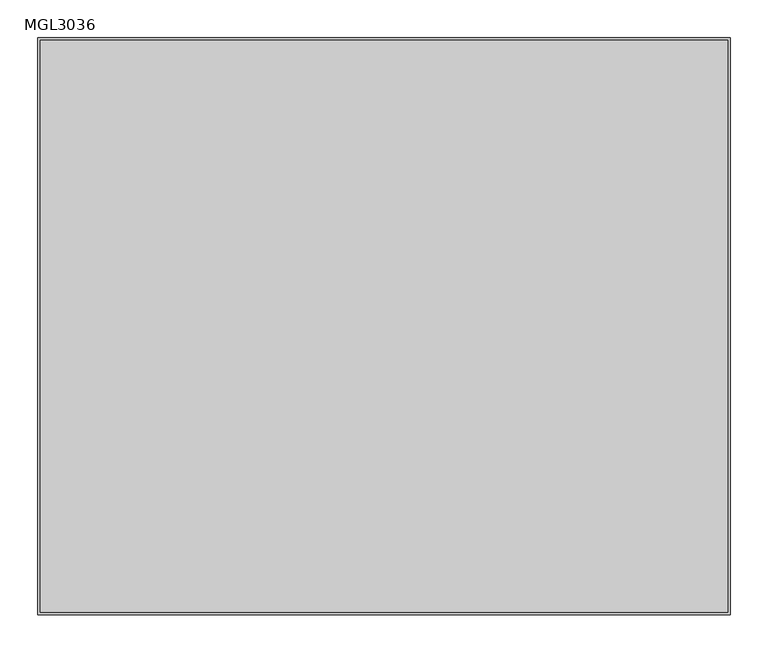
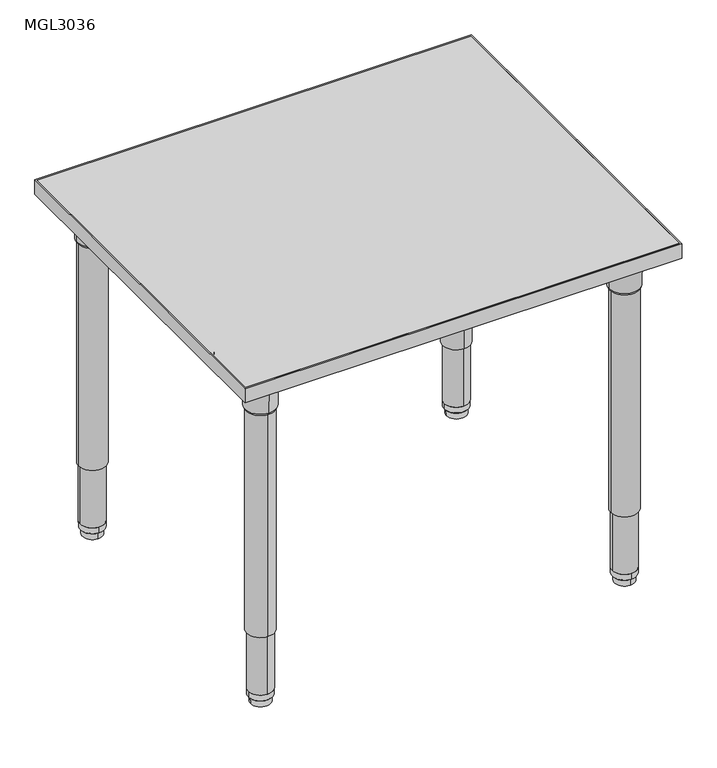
"""IFC4 building model written with IfcOpenShell, lengths in millimetres: furniture geometry, ERG-Mingle-Table-Rectangle : MGL3036."""

import ifcopenshell
import ifcopenshell.guid

model = None  # the IFC model being written
_history = None  # IfcOwnerHistory: only IFC2X3 demands one
_inside = {}  # id of a spatial element -> (the spatial element, [elements in it])
_under = {}  # id of a project, library or spatial element -> (it, [spatial elements below it])
_declared = {}  # id of a project -> (the project, [libraries it declares])
_typed = {}  # id of a type object -> (the type object, [elements of that type])
_made_of = {}  # id of a material, layer set ... -> (it, [elements and type objects made of it])


def new_model(schema):
    """Start an empty IFC model of exactly this schema.

    Asked for "IFC4X3", IfcOpenShell would pick the latest addendum, in which some entities
    have other attributes; the version numbers below select the first issue.
    IFC2X3 requires an IfcOwnerHistory on every rooted entity: one is made here for all.
    """
    global model, _history
    if schema == "IFC4X3":
        model = ifcopenshell.file(schema_version=(4, 3, 0, 0))
    else:
        model = ifcopenshell.file(schema=schema)
    _inside.clear()
    _under.clear()
    _declared.clear()
    _typed.clear()
    _made_of.clear()
    _history = None
    if model.schema == "IFC2X3":
        org = make("IfcOrganization", Name="unknown")
        user = make(
            "IfcPersonAndOrganization",
            ThePerson=make("IfcPerson", FamilyName="unknown"),
            TheOrganization=org,
        )
        app = make(
            "IfcApplication",
            ApplicationDeveloper=org,
            Version="unknown",
            ApplicationFullName="unknown",
            ApplicationIdentifier="unknown",
        )
        _history = make(
            "IfcOwnerHistory",
            OwningUser=user,
            OwningApplication=app,
            ChangeAction="ADDED",
            CreationDate=0,
        )
    return model


def make(cls, **values):
    """One entity of the class cls with the attributes given. An attribute that is None is left unset."""
    return model.create_entity(
        cls, **{name: value for name, value in values.items() if value is not None}
    )


def rooted(cls, **values):
    """An entity with a GlobalId (a new one), such as an element, a storey or a relation."""
    return make(cls, GlobalId=ifcopenshell.guid.new(), OwnerHistory=_history, **values)


def si_unit(unit_type, name, prefix=None):
    """IfcSIUnit, for example si_unit("LENGTHUNIT", "METRE", prefix="MILLI")."""
    return make("IfcSIUnit", UnitType=unit_type, Prefix=prefix, Name=name)


def assignment(units):
    """IfcUnitAssignment: the units of a project."""
    return None if units is None else make("IfcUnitAssignment", Units=units)


def point(xyz):
    """IfcCartesianPoint."""
    return None if xyz is None else make("IfcCartesianPoint", Coordinates=xyz)


def direction(xyz):
    """IfcDirection."""
    return None if xyz is None else make("IfcDirection", DirectionRatios=xyz)


def frame(location, z_axis=None, x_axis=None):
    """IfcAxis2Placement3D, a coordinate frame: its origin and axes. An axis left out is left unset."""
    return make(
        "IfcAxis2Placement3D",
        Location=point(location),
        Axis=direction(z_axis),
        RefDirection=direction(x_axis),
    )


def frame_2d(location, x_axis=None):
    """IfcAxis2Placement2D, a coordinate frame in the plane: its origin and x axis."""
    return make(
        "IfcAxis2Placement2D", Location=point(location), RefDirection=direction(x_axis)
    )


def origin():
    """The frame at (0, 0, 0) with its axes left unset."""
    return frame((0.0, 0.0, 0.0))


def place(relative_to, where):
    """IfcLocalPlacement: puts the frame where relative to a parent placement (None: the world)."""
    return make(
        "IfcLocalPlacement", PlacementRelTo=relative_to, RelativePlacement=where
    )


def context(
    kind, dimensions, precision=None, world=None, true_north=None, identifier=None
):
    """IfcGeometricRepresentationContext, for example the 3D "Model" context."""
    return make(
        "IfcGeometricRepresentationContext",
        ContextIdentifier=identifier,
        ContextType=kind,
        CoordinateSpaceDimension=dimensions,
        Precision=precision,
        WorldCoordinateSystem=world,
        TrueNorth=true_north,
    )


def project(units=None, contexts=None):
    """IfcProject with its units and contexts."""
    return rooted(
        "IfcProject",
        Name="project",
        RepresentationContexts=contexts,
        UnitsInContext=assignment(units),
    )


def spatial(cls, under=None, at=None, **own):
    """A site, building, storey or space (cls), placed at a placement, below another one or the project."""
    s = rooted(cls, ObjectPlacement=at, **own)
    if under is not None:
        _under.setdefault(under.id(), (under, []))[1].append(s)
    return s


def polyline(points):
    """IfcPolyline through the points."""
    return make("IfcPolyline", Points=[point(p) for p in points])


def circle_curve(where, radius):
    """IfcCircle in the frame where."""
    return make("IfcCircle", Position=where, Radius=radius)


def trimmed(basis, trim1, trim2, sense, master):
    """IfcTrimmedCurve: the piece of a basis curve between two trims."""
    return make(
        "IfcTrimmedCurve",
        BasisCurve=basis,
        Trim1=trim1,
        Trim2=trim2,
        SenseAgreement=sense,
        MasterRepresentation=master,
    )


def segment(curve, same_sense, transition):
    """IfcCompositeCurveSegment."""
    return make(
        "IfcCompositeCurveSegment",
        Transition=transition,
        SameSense=same_sense,
        ParentCurve=curve,
    )


def composite_curve(segments, self_intersect=None):
    """IfcCompositeCurve: segments joined end to end."""
    return make("IfcCompositeCurve", Segments=segments, SelfIntersect=self_intersect)


def outline(outer, holes=None, kind="AREA"):
    """IfcArbitraryClosedProfileDef: a profile drawn as a closed curve; with holes, ...WithVoids."""
    if holes is None:
        return make("IfcArbitraryClosedProfileDef", ProfileType=kind, OuterCurve=outer)
    return make(
        "IfcArbitraryProfileDefWithVoids",
        ProfileType=kind,
        OuterCurve=outer,
        InnerCurves=holes,
    )


def extrude(swept, where, along, depth):
    """IfcExtrudedAreaSolid: the profile swept, set in the frame where, extruded along a direction by depth."""
    return make(
        "IfcExtrudedAreaSolid",
        SweptArea=swept,
        Position=where,
        ExtrudedDirection=direction(along),
        Depth=depth,
    )


def shape(context_of_items, identifier, shape_type, items):
    """IfcShapeRepresentation: the items that make up one representation, for example the "Body"."""
    return make(
        "IfcShapeRepresentation",
        ContextOfItems=context_of_items,
        RepresentationIdentifier=identifier,
        RepresentationType=shape_type,
        Items=items,
    )


def source(mapping_origin, context_of_items, identifier, shape_type, items):
    """IfcRepresentationMap: a shape defined once, which mapped items show again and again."""
    return make(
        "IfcRepresentationMap",
        MappingOrigin=mapping_origin,
        MappedRepresentation=shape(context_of_items, identifier, shape_type, items),
    )


def transform(
    local_origin,
    x_axis=None,
    y_axis=None,
    z_axis=None,
    scale=None,
    scale2=None,
    scale3=None,
    uniform=True,
):
    """IfcCartesianTransformationOperator3D, or its non-uniform kind. x_axis, y_axis, z_axis: its Axis1, 2, 3."""
    if uniform:
        return make(
            "IfcCartesianTransformationOperator3D",
            Axis1=direction(x_axis),
            Axis2=direction(y_axis),
            LocalOrigin=point(local_origin),
            Scale=scale,
            Axis3=direction(z_axis),
        )
    return make(
        "IfcCartesianTransformationOperator3DnonUniform",
        Axis1=direction(x_axis),
        Axis2=direction(y_axis),
        LocalOrigin=point(local_origin),
        Scale=scale,
        Axis3=direction(z_axis),
        Scale2=scale2,
        Scale3=scale3,
    )


def mapped(mapping_source, mapping_target):
    """IfcMappedItem: shows the shape of a source again, moved by a transform."""
    return make(
        "IfcMappedItem", MappingSource=mapping_source, MappingTarget=mapping_target
    )


def made_of(thing, what):
    """Note that an element or type object is made of a material, layer set ...; save() writes the relation."""
    if what is not None:
        _made_of.setdefault(what.id(), (what, []))[1].append(thing)
    return thing


def element(
    cls,
    number,
    at=None,
    inside=None,
    cuts=None,
    type_object=None,
    material=None,
    context=None,
    identifier="Body",
    shape_type=None,
    held_by="IfcProductDefinitionShape",
    body=None,
    shapes=None,
    **own,
):
    """One element of the class cls, such as IfcWall. Its Tag is "e" and its number.

    at: its placement. inside: the storey or other place that contains it. cuts: it is an
    opening in that element (IfcRelVoidsElement). A single representation is given by context,
    identifier, shape_type and body (its items); several are given by shapes. held_by: the class
    of the entity that holds the representations. save() writes the other relations.
    """
    e = rooted(cls, Tag="e%d" % number, ObjectPlacement=at, **own)
    if body is not None:
        shapes = [shape(context, identifier, shape_type, body)]
    if shapes is not None:
        e.Representation = make(held_by, Representations=shapes)
    if inside is not None:
        _inside.setdefault(inside.id(), (inside, []))[1].append(e)
    if cuts is not None:
        rooted(
            "IfcRelVoidsElement", RelatingBuildingElement=cuts, RelatedOpeningElement=e
        )
    if type_object is not None:
        _typed.setdefault(type_object.id(), (type_object, []))[1].append(e)
    return made_of(e, material)


def aggregate(whole, parts):
    """IfcRelAggregates: a whole, such as a stair, and the parts it consists of."""
    return rooted("IfcRelAggregates", RelatingObject=whole, RelatedObjects=parts)


def save(model, path):
    """Write the relations noted so far, then the file.

    IfcRelAggregates (storeys below a building ...), IfcRelContainedInSpatialStructure (elements
    in a storey), IfcRelDefinesByType, IfcRelAssociatesMaterial and IfcRelDeclares: one each for
    every whole, place, type object, material and project.
    """
    for whole, parts in _under.values():
        aggregate(whole, parts)
    for where, things in _inside.values():
        rooted(
            "IfcRelContainedInSpatialStructure",
            RelatedElements=things,
            RelatingStructure=where,
        )
    for kind, things in _typed.values():
        rooted("IfcRelDefinesByType", RelatedObjects=things, RelatingType=kind)
    for what, things in _made_of.values():
        rooted("IfcRelAssociatesMaterial", RelatedObjects=things, RelatingMaterial=what)
    for by, libraries in _declared.values():
        rooted("IfcRelDeclares", RelatingContext=by, RelatedDefinitions=libraries)
    model.write(path)


def plane_surface(at):
    """IfcPlane: the flat surface through the origin of the frame at, square to its z axis."""
    return make("IfcPlane", Position=at)


def cylinder_surface(at, radius):
    """IfcCylindricalSurface: all points at the distance radius from the z axis of the frame at."""
    return make("IfcCylindricalSurface", Position=at, Radius=radius)


def revolved_surface(curve, axis_point, axis_direction):
    """IfcSurfaceOfRevolution: the curve turned about the line through axis_point along axis_direction."""
    return make(
        "IfcSurfaceOfRevolution",
        SweptCurve=make("IfcArbitraryOpenProfileDef", ProfileType="CURVE", Curve=curve),
        AxisPosition=make("IfcAxis1Placement", Location=point(axis_point), Axis=direction(axis_direction)),
    )


def advanced_brep(points, edges, surfaces, faces):
    """IfcAdvancedBrep: a solid bounded by faces that lie on surfaces and meet in shared edges.

    An edge is (start, end): straight between two places in points (the first is 0);
    or (start, end, curve); or (start, end, curve, False) where it runs against its curve.
    A face is (place in surfaces, loops), or (place, loops, False) where it looks against
    its surface's normal. A loop lists edges by number (the first is 1), with a minus sign
    where the edge is run from its end to its start. The first loop is the outer one.
    """
    corners = [point(p) for p in points]
    vertices = [make("IfcVertexPoint", VertexGeometry=c) for c in corners]
    made = []
    for start, end, *more in edges:
        made.append(
            make(
                "IfcEdgeCurve",
                EdgeStart=vertices[start],
                EdgeEnd=vertices[end],
                EdgeGeometry=more[0] if more else make("IfcPolyline", Points=[corners[start], corners[end]]),
                SameSense=more[1] if len(more) > 1 else True,
            )
        )
    hull = []
    for where, loops, *sense in faces:
        bounds = []
        for j, loop in enumerate(loops):
            ring = [make("IfcOrientedEdge", EdgeElement=made[abs(k) - 1], Orientation=k > 0) for k in loop]
            bounds.append(
                make(
                    "IfcFaceOuterBound" if j == 0 else "IfcFaceBound",
                    Bound=make("IfcEdgeLoop", EdgeList=ring),
                    Orientation=True,
                )
            )
        hull.append(make("IfcAdvancedFace", Bounds=bounds, FaceSurface=surfaces[where], SameSense=sense[0] if sense else True))
    return make("IfcAdvancedBrep", Outer=make("IfcClosedShell", CfsFaces=hull))


def mgl3036_8a9be515(model_context):
    return source(origin(), model_context, "Body", "SolidModel", [
        advanced_brep(
        [(350.9646842, -304.8, 650.5933069), (411.0353158, -304.8, 650.5933069), (381.0, -304.8, 650.5933069), (348.856117, -304.8, 654.3580481), (413.143883, -304.8, 654.3580481), (347.9206351, -304.8, 707.7631458), (414.0793649, -304.8, 707.7631458), (344.471083, -304.8, 714.1198315), (417.528917, -304.8, 714.1198315), (344.471083, -304.8, 726.8198315), (417.528917, -304.8, 726.8198315), (381.0, -304.8, 726.8198315)],
        [
            (0, 1, circle_curve(frame((381.0, -304.8, 650.5933069), z_axis=(0.0, 0.0, -1.0), x_axis=(1.0, 0.0, 0.0)), 30.0353158)),
            (1, 2),
            (2, 0),
            (1, 0, circle_curve(frame((381.0, -304.8, 650.5933069), z_axis=(0.0, 0.0, -1.0), x_axis=(1.0, 0.0, 0.0)), 30.0353158)),
            (3, 4, circle_curve(frame((381.0, -304.8, 654.3580481), z_axis=(0.0, 0.0, -1.0), x_axis=(1.0, 0.0, 0.0)), 32.143883)),
            (4, 1),
            (0, 3),
            (4, 3, circle_curve(frame((381.0, -304.8, 654.3580481), z_axis=(0.0, 0.0, -1.0), x_axis=(1.0, 0.0, 0.0)), 32.143883)),
            (5, 6, circle_curve(frame((381.0, -304.8, 707.7631458), z_axis=(0.0, 0.0, -1.0), x_axis=(1.0, 0.0, 0.0)), 33.0793649)),
            (6, 4),
            (3, 5),
            (6, 5, circle_curve(frame((381.0, -304.8, 707.7631458), z_axis=(0.0, 0.0, -1.0), x_axis=(1.0, 0.0, 0.0)), 33.0793649)),
            (7, 8, circle_curve(frame((381.0, -304.8, 714.1198315), z_axis=(0.0, 0.0, -1.0), x_axis=(1.0, 0.0, 0.0)), 36.528917)),
            (8, 6),
            (5, 7),
            (8, 7, circle_curve(frame((381.0, -304.8, 714.1198315), z_axis=(0.0, 0.0, -1.0), x_axis=(1.0, 0.0, 0.0)), 36.528917)),
            (9, 10, circle_curve(frame((381.0, -304.8, 726.8198315), z_axis=(0.0, 0.0, -1.0), x_axis=(1.0, 0.0, 0.0)), 36.528917)),
            (10, 8),
            (7, 9),
            (10, 9, circle_curve(frame((381.0, -304.8, 726.8198315), z_axis=(0.0, 0.0, -1.0), x_axis=(1.0, 0.0, 0.0)), 36.528917)),
            (11, 10),
            (9, 11),
        ],
        [
            plane_surface(frame((381.0, -304.8, 650.5933069), z_axis=(0.0, 0.0, -1.0), x_axis=(1.0, 0.0, 0.0))),
            revolved_surface(polyline([(411.0353158, -304.8, 650.5933069), (413.143883, -304.8, 654.3580481)]), (381.0, -304.8, 726.8198315), (0.0, 0.0, 1.0)),
            revolved_surface(polyline([(413.143883, -304.8, 654.3580481), (414.0793649, -304.8, 707.7631458)]), (381.0, -304.8, 726.8198315), (0.0, 0.0, 1.0)),
            revolved_surface(polyline([(414.0793649, -304.8, 707.7631458), (417.528917, -304.8, 714.1198315)]), (381.0, -304.8, 726.8198315), (0.0, 0.0, 1.0)),
            cylinder_surface(frame((381.0, -304.8, 726.8198315), z_axis=(0.0, 0.0, 1.0), x_axis=(1.0, 0.0, 0.0)), 36.528917),
            plane_surface(frame((381.0, -304.8, 726.8198315), z_axis=(0.0, 0.0, 1.0), x_axis=(1.0, 0.0, 0.0))),
        ],
        [
            (0, [[1, 2, 3]]),
            (0, [[4, -3, -2]]),
            (1, [[5, 6, -1, 7]]),
            (1, [[8, -7, -4, -6]]),
            (2, [[9, 10, -5, 11]]),
            (2, [[12, -11, -8, -10]]),
            (3, [[13, 14, -9, 15]]),
            (3, [[16, -15, -12, -14]]),
            (4, [[17, 18, -13, 19]]),
            (4, [[20, -19, -16, -18]]),
            (5, [[21, -17, 22]]),
            (5, [[-22, -20, -21]]),
        ],
    ),
        extrude(outline(composite_curve([segment(polyline([(426.873768, -222.2223426), (426.873768, -335.9483754)]), True, "CONTINUOUS"), segment(trimmed(circle_curve(frame_2d((410.998768, -335.9483754)), 15.875), [point((426.873768, -335.9483754))], [point((410.998768, -351.8233754))], False, "CARTESIAN"), True, "CONTINUOUS"), segment(polyline([(410.998768, -351.8233754), (297.2864205, -351.8233754)]), True, "CONTINUOUS"), segment(trimmed(circle_curve(frame_2d((297.2864205, -339.1233754)), 12.7), [point((297.2864205, -351.8233754))], [point((284.6491923, -337.8622394))], False, "CARTESIAN"), True, "CONTINUOUS"), segment(trimmed(circle_curve(frame_2d((427.1486077, -352.0830117)), 143.2072406), [point((284.6491923, -337.8622394))], [point((412.9111525, -209.5852622))], False, "CARTESIAN"), True, "CONTINUOUS"), segment(trimmed(circle_curve(frame_2d((414.173768, -222.2223426)), 12.7), [point((412.9111525, -209.5852622))], [point((426.873768, -222.2223426))], False, "CARTESIAN"), True, "CONTINUOUS")], self_intersect=False)), frame((0.0, 0.0, 726.8198315), z_axis=(0.0, 0.0, 1.0), x_axis=(1.0, 0.0, 0.0)), (0.0, 0.0, 1.0), 3.4301685),
        extrude(outline(composite_curve([segment(trimmed(circle_curve(frame_2d((381.0, -304.8)), 28.575), [point((409.575, -304.8))], [point((352.425, -304.8))], False, "CARTESIAN"), True, "CONTINUOUS"), segment(trimmed(circle_curve(frame_2d((381.0, -304.8)), 28.575), [point((352.425, -304.8))], [point((409.575, -304.8))], False, "CARTESIAN"), True, "CONTINUOUS")], self_intersect=False)), frame((0.0, 0.0, 158.3876979), z_axis=(0.0, 0.0, 1.0), x_axis=(1.0, 0.0, 0.0)), (0.0, 0.0, 1.0), 495.4089866),
        extrude(outline(composite_curve([segment(trimmed(circle_curve(frame_2d((381.0, -304.8)), 25.4), [point((406.4, -304.8))], [point((355.6, -304.8))], False, "CARTESIAN"), True, "CONTINUOUS"), segment(trimmed(circle_curve(frame_2d((381.0, -304.8)), 25.4), [point((355.6, -304.8))], [point((406.4, -304.8))], False, "CARTESIAN"), True, "CONTINUOUS")], self_intersect=False)), frame((0.0, 0.0, 28.9580435), z_axis=(0.0, 0.0, 1.0), x_axis=(1.0, 0.0, 0.0)), (0.0, 0.0, 1.0), 176.7049119),
        advanced_brep(
        [(381.0, -279.5649896, 28.9580185), (381.0, -330.0350104, 28.9580185), (381.0, -304.8, 28.9580185), (381.0, -279.700761, 16.3032949), (381.0, -329.899239, 16.3032949), (381.0, -281.2160619, 14.7291007), (381.0, -328.3839381, 14.7291007), (381.0, -283.6591422, 14.7291007), (381.0, -325.9408578, 14.7291007), (381.0, -283.8521336, 0.0), (381.0, -325.7478664, 0.0), (381.0, -304.8, 0.0)],
        [
            (0, 1, circle_curve(frame((381.0, -304.8, 28.9580185), z_axis=(0.0, 0.0, 1.0), x_axis=(0.0, -1.0, 0.0)), 25.2350104)),
            (1, 2),
            (2, 0),
            (1, 0, circle_curve(frame((381.0, -304.8, 28.9580185), z_axis=(0.0, 0.0, 1.0), x_axis=(0.0, -1.0, 0.0)), 25.2350104)),
            (3, 4, circle_curve(frame((381.0, -304.8, 16.3032949), z_axis=(0.0, 0.0, 1.0), x_axis=(0.0, -1.0, 0.0)), 25.099239)),
            (4, 1),
            (0, 3),
            (4, 3, circle_curve(frame((381.0, -304.8, 16.3032949), z_axis=(0.0, 0.0, 1.0), x_axis=(0.0, -1.0, 0.0)), 25.099239)),
            (5, 6, circle_curve(frame((381.0, -304.8, 14.7291007), z_axis=(0.0, 0.0, 1.0), x_axis=(0.0, -1.0, 0.0)), 23.5839381)),
            (6, 4),
            (3, 5),
            (6, 5, circle_curve(frame((381.0, -304.8, 14.7291007), z_axis=(0.0, 0.0, 1.0), x_axis=(0.0, -1.0, 0.0)), 23.5839381)),
            (7, 8, circle_curve(frame((381.0, -304.8, 14.7291007), z_axis=(0.0, 0.0, 1.0), x_axis=(0.0, -1.0, 0.0)), 21.1408578)),
            (8, 6),
            (5, 7),
            (8, 7, circle_curve(frame((381.0, -304.8, 14.7291007), z_axis=(0.0, 0.0, 1.0), x_axis=(0.0, -1.0, 0.0)), 21.1408578)),
            (9, 10, circle_curve(frame((381.0, -304.8, 0.0), z_axis=(0.0, 0.0, 1.0), x_axis=(0.0, -1.0, 0.0)), 20.9478664)),
            (10, 8),
            (7, 9),
            (10, 9, circle_curve(frame((381.0, -304.8, 0.0), z_axis=(0.0, 0.0, 1.0), x_axis=(0.0, -1.0, 0.0)), 20.9478664)),
            (11, 10),
            (9, 11),
        ],
        [
            plane_surface(frame((381.0, -304.8, 28.9580185), z_axis=(0.0, 0.0, 1.0), x_axis=(0.0, -1.0, 0.0))),
            revolved_surface(polyline([(381.0, -330.0350104, 28.9580185), (381.0, -329.899239, 16.3032949)]), (381.0, -304.8, 0.0), (0.0, 0.0, -1.0)),
            revolved_surface(polyline([(381.0, -329.899239, 16.3032949), (381.0, -328.3839381, 14.7291007)]), (381.0, -304.8, 0.0), (0.0, 0.0, -1.0)),
            plane_surface(frame((381.0, -304.8, 14.7291007), z_axis=(0.0, 0.0, -1.0), x_axis=(0.0, -1.0, 0.0))),
            revolved_surface(polyline([(381.0, -325.9408578, 14.7291007), (381.0, -325.7478664, 0.0)]), (381.0, -304.8, 0.0), (0.0, 0.0, -1.0)),
            plane_surface(frame((381.0, -304.8, 0.0), z_axis=(0.0, 0.0, -1.0), x_axis=(0.0, -1.0, 0.0))),
        ],
        [
            (0, [[1, 2, 3]]),
            (0, [[4, -3, -2]]),
            (1, [[5, 6, -1, 7]]),
            (1, [[8, -7, -4, -6]]),
            (2, [[9, 10, -5, 11]]),
            (2, [[12, -11, -8, -10]]),
            (3, [[13, 14, -9, 15]]),
            (3, [[16, -15, -12, -14]]),
            (4, [[17, 18, -13, 19]]),
            (4, [[20, -19, -16, -18]]),
            (5, [[21, -17, 22]]),
            (5, [[-22, -20, -21]]),
        ],
    ),
        advanced_brep(
        [(-381.0, -274.7646842, 650.5933069), (-381.0, -334.8353158, 650.5933069), (-381.0, -304.8, 650.5933069), (-381.0, -272.656117, 654.3580481), (-381.0, -336.943883, 654.3580481), (-381.0, -271.7206351, 707.7631458), (-381.0, -337.8793649, 707.7631458), (-381.0, -268.271083, 714.1198315), (-381.0, -341.328917, 714.1198315), (-381.0, -268.271083, 726.8198315), (-381.0, -341.328917, 726.8198315), (-381.0, -304.8, 726.8198315)],
        [
            (0, 1, circle_curve(frame((-381.0, -304.8, 650.5933069), z_axis=(0.0, 0.0, -1.0), x_axis=(0.0, -1.0, 0.0)), 30.0353158)),
            (1, 2),
            (2, 0),
            (1, 0, circle_curve(frame((-381.0, -304.8, 650.5933069), z_axis=(0.0, 0.0, -1.0), x_axis=(0.0, -1.0, 0.0)), 30.0353158)),
            (3, 4, circle_curve(frame((-381.0, -304.8, 654.3580481), z_axis=(0.0, 0.0, -1.0), x_axis=(0.0, -1.0, 0.0)), 32.143883)),
            (4, 1),
            (0, 3),
            (4, 3, circle_curve(frame((-381.0, -304.8, 654.3580481), z_axis=(0.0, 0.0, -1.0), x_axis=(0.0, -1.0, 0.0)), 32.143883)),
            (5, 6, circle_curve(frame((-381.0, -304.8, 707.7631458), z_axis=(0.0, 0.0, -1.0), x_axis=(0.0, -1.0, 0.0)), 33.0793649)),
            (6, 4),
            (3, 5),
            (6, 5, circle_curve(frame((-381.0, -304.8, 707.7631458), z_axis=(0.0, 0.0, -1.0), x_axis=(0.0, -1.0, 0.0)), 33.0793649)),
            (7, 8, circle_curve(frame((-381.0, -304.8, 714.1198315), z_axis=(0.0, 0.0, -1.0), x_axis=(0.0, -1.0, 0.0)), 36.528917)),
            (8, 6),
            (5, 7),
            (8, 7, circle_curve(frame((-381.0, -304.8, 714.1198315), z_axis=(0.0, 0.0, -1.0), x_axis=(0.0, -1.0, 0.0)), 36.528917)),
            (9, 10, circle_curve(frame((-381.0, -304.8, 726.8198315), z_axis=(0.0, 0.0, -1.0), x_axis=(0.0, -1.0, 0.0)), 36.528917)),
            (10, 8),
            (7, 9),
            (10, 9, circle_curve(frame((-381.0, -304.8, 726.8198315), z_axis=(0.0, 0.0, -1.0), x_axis=(0.0, -1.0, 0.0)), 36.528917)),
            (11, 10),
            (9, 11),
        ],
        [
            plane_surface(frame((-381.0, -304.8, 650.5933069), z_axis=(0.0, 0.0, -1.0), x_axis=(0.0, -1.0, 0.0))),
            revolved_surface(polyline([(-381.0, -334.8353158, 650.5933069), (-381.0, -336.943883, 654.3580481)]), (-381.0, -304.8, 726.8198315), (0.0, 0.0, 1.0)),
            revolved_surface(polyline([(-381.0, -336.943883, 654.3580481), (-381.0, -337.8793649, 707.7631458)]), (-381.0, -304.8, 726.8198315), (0.0, 0.0, 1.0)),
            revolved_surface(polyline([(-381.0, -337.8793649, 707.7631458), (-381.0, -341.328917, 714.1198315)]), (-381.0, -304.8, 726.8198315), (0.0, 0.0, 1.0)),
            cylinder_surface(frame((-381.0, -304.8, 726.8198315), z_axis=(0.0, 0.0, 1.0), x_axis=(0.0, -1.0, 0.0)), 36.528917),
            plane_surface(frame((-381.0, -304.8, 726.8198315), z_axis=(0.0, 0.0, 1.0), x_axis=(0.0, -1.0, 0.0))),
        ],
        [
            (0, [[1, 2, 3]]),
            (0, [[4, -3, -2]]),
            (1, [[5, 6, -1, 7]]),
            (1, [[8, -7, -4, -6]]),
            (2, [[9, 10, -5, 11]]),
            (2, [[12, -11, -8, -10]]),
            (3, [[13, 14, -9, 15]]),
            (3, [[16, -15, -12, -14]]),
            (4, [[17, 18, -13, 19]]),
            (4, [[20, -19, -16, -18]]),
            (5, [[21, -17, 22]]),
            (5, [[-22, -20, -21]]),
        ],
    ),
        extrude(outline(composite_curve([segment(polyline([(-298.4223426, -350.673768), (-412.1483754, -350.673768)]), True, "CONTINUOUS"), segment(trimmed(circle_curve(frame_2d((-412.1483754, -334.798768)), 15.875), [point((-412.1483754, -350.673768))], [point((-428.0233754, -334.798768))], False, "CARTESIAN"), True, "CONTINUOUS"), segment(polyline([(-428.0233754, -334.798768), (-428.0233754, -221.0864205)]), True, "CONTINUOUS"), segment(trimmed(circle_curve(frame_2d((-415.3233754, -221.0864205)), 12.7), [point((-428.0233754, -221.0864205))], [point((-414.0622394, -208.4491923))], False, "CARTESIAN"), True, "CONTINUOUS"), segment(trimmed(circle_curve(frame_2d((-428.2830117, -350.9486077)), 143.2072406), [point((-414.0622394, -208.4491923))], [point((-285.7852622, -336.7111525))], False, "CARTESIAN"), True, "CONTINUOUS"), segment(trimmed(circle_curve(frame_2d((-298.4223426, -337.973768)), 12.7), [point((-285.7852622, -336.7111525))], [point((-298.4223426, -350.673768))], False, "CARTESIAN"), True, "CONTINUOUS")], self_intersect=False)), frame((0.0, 0.0, 726.8198315), z_axis=(0.0, 0.0, 1.0), x_axis=(1.0, 0.0, 0.0)), (0.0, 0.0, 1.0), 3.4301685),
        extrude(outline(composite_curve([segment(trimmed(circle_curve(frame_2d((-381.0, -304.8)), 28.575), [point((-381.0, -333.375))], [point((-381.0, -276.225))], False, "CARTESIAN"), True, "CONTINUOUS"), segment(trimmed(circle_curve(frame_2d((-381.0, -304.8)), 28.575), [point((-381.0, -276.225))], [point((-381.0, -333.375))], False, "CARTESIAN"), True, "CONTINUOUS")], self_intersect=False)), frame((0.0, 0.0, 158.3876979), z_axis=(0.0, 0.0, 1.0), x_axis=(1.0, 0.0, 0.0)), (0.0, 0.0, 1.0), 495.4089866),
        extrude(outline(composite_curve([segment(trimmed(circle_curve(frame_2d((-381.0, -304.8)), 25.4), [point((-381.0, -330.2))], [point((-381.0, -279.4))], False, "CARTESIAN"), True, "CONTINUOUS"), segment(trimmed(circle_curve(frame_2d((-381.0, -304.8)), 25.4), [point((-381.0, -279.4))], [point((-381.0, -330.2))], False, "CARTESIAN"), True, "CONTINUOUS")], self_intersect=False)), frame((0.0, 0.0, 28.9580435), z_axis=(0.0, 0.0, 1.0), x_axis=(1.0, 0.0, 0.0)), (0.0, 0.0, 1.0), 176.7049119),
        advanced_brep(
        [(-355.7649896, -304.8, 28.9580185), (-406.2350104, -304.8, 28.9580185), (-381.0, -304.8, 28.9580185), (-355.900761, -304.8, 16.3032949), (-406.099239, -304.8, 16.3032949), (-357.4160619, -304.8, 14.7291007), (-404.5839381, -304.8, 14.7291007), (-359.8591422, -304.8, 14.7291007), (-402.1408578, -304.8, 14.7291007), (-360.0521336, -304.8, 0.0), (-401.9478664, -304.8, 0.0), (-381.0, -304.8, 0.0)],
        [
            (0, 1, circle_curve(frame((-381.0, -304.8, 28.9580185), z_axis=(0.0, 0.0, 1.0), x_axis=(-1.0, 0.0, 0.0)), 25.2350104)),
            (1, 2),
            (2, 0),
            (1, 0, circle_curve(frame((-381.0, -304.8, 28.9580185), z_axis=(0.0, 0.0, 1.0), x_axis=(-1.0, 0.0, 0.0)), 25.2350104)),
            (3, 4, circle_curve(frame((-381.0, -304.8, 16.3032949), z_axis=(0.0, 0.0, 1.0), x_axis=(-1.0, 0.0, 0.0)), 25.099239)),
            (4, 1),
            (0, 3),
            (4, 3, circle_curve(frame((-381.0, -304.8, 16.3032949), z_axis=(0.0, 0.0, 1.0), x_axis=(-1.0, 0.0, 0.0)), 25.099239)),
            (5, 6, circle_curve(frame((-381.0, -304.8, 14.7291007), z_axis=(0.0, 0.0, 1.0), x_axis=(-1.0, 0.0, 0.0)), 23.5839381)),
            (6, 4),
            (3, 5),
            (6, 5, circle_curve(frame((-381.0, -304.8, 14.7291007), z_axis=(0.0, 0.0, 1.0), x_axis=(-1.0, 0.0, 0.0)), 23.5839381)),
            (7, 8, circle_curve(frame((-381.0, -304.8, 14.7291007), z_axis=(0.0, 0.0, 1.0), x_axis=(-1.0, 0.0, 0.0)), 21.1408578)),
            (8, 6),
            (5, 7),
            (8, 7, circle_curve(frame((-381.0, -304.8, 14.7291007), z_axis=(0.0, 0.0, 1.0), x_axis=(-1.0, 0.0, 0.0)), 21.1408578)),
            (9, 10, circle_curve(frame((-381.0, -304.8, 0.0), z_axis=(0.0, 0.0, 1.0), x_axis=(-1.0, 0.0, 0.0)), 20.9478664)),
            (10, 8),
            (7, 9),
            (10, 9, circle_curve(frame((-381.0, -304.8, 0.0), z_axis=(0.0, 0.0, 1.0), x_axis=(-1.0, 0.0, 0.0)), 20.9478664)),
            (11, 10),
            (9, 11),
        ],
        [
            plane_surface(frame((-381.0, -304.8, 28.9580185), z_axis=(0.0, 0.0, 1.0), x_axis=(-1.0, 0.0, 0.0))),
            revolved_surface(polyline([(-406.2350104, -304.8, 28.9580185), (-406.099239, -304.8, 16.3032949)]), (-381.0, -304.8, 0.0), (0.0, 0.0, -1.0)),
            revolved_surface(polyline([(-406.099239, -304.8, 16.3032949), (-404.5839381, -304.8, 14.7291007)]), (-381.0, -304.8, 0.0), (0.0, 0.0, -1.0)),
            plane_surface(frame((-381.0, -304.8, 14.7291007), z_axis=(0.0, 0.0, -1.0), x_axis=(-1.0, 0.0, 0.0))),
            revolved_surface(polyline([(-402.1408578, -304.8, 14.7291007), (-401.9478664, -304.8, 0.0)]), (-381.0, -304.8, 0.0), (0.0, 0.0, -1.0)),
            plane_surface(frame((-381.0, -304.8, 0.0), z_axis=(0.0, 0.0, -1.0), x_axis=(-1.0, 0.0, 0.0))),
        ],
        [
            (0, [[1, 2, 3]]),
            (0, [[4, -3, -2]]),
            (1, [[5, 6, -1, 7]]),
            (1, [[8, -7, -4, -6]]),
            (2, [[9, 10, -5, 11]]),
            (2, [[12, -11, -8, -10]]),
            (3, [[13, 14, -9, 15]]),
            (3, [[16, -15, -12, -14]]),
            (4, [[17, 18, -13, 19]]),
            (4, [[20, -19, -16, -18]]),
            (5, [[21, -17, 22]]),
            (5, [[-22, -20, -21]]),
        ],
    ),
        advanced_brep(
        [(381.0, 274.7646842, 650.5933069), (381.0, 334.8353158, 650.5933069), (381.0, 304.8, 650.5933069), (381.0, 272.656117, 654.3580481), (381.0, 336.943883, 654.3580481), (381.0, 271.7206351, 707.7631458), (381.0, 337.8793649, 707.7631458), (381.0, 268.271083, 714.1198315), (381.0, 341.328917, 714.1198315), (381.0, 268.271083, 726.8198315), (381.0, 341.328917, 726.8198315), (381.0, 304.8, 726.8198315)],
        [
            (0, 1, circle_curve(frame((381.0, 304.8, 650.5933069), z_axis=(0.0, 0.0, -1.0), x_axis=(0.0, 1.0, 0.0)), 30.0353158)),
            (1, 2),
            (2, 0),
            (1, 0, circle_curve(frame((381.0, 304.8, 650.5933069), z_axis=(0.0, 0.0, -1.0), x_axis=(0.0, 1.0, 0.0)), 30.0353158)),
            (3, 4, circle_curve(frame((381.0, 304.8, 654.3580481), z_axis=(0.0, 0.0, -1.0), x_axis=(0.0, 1.0, 0.0)), 32.143883)),
            (4, 1),
            (0, 3),
            (4, 3, circle_curve(frame((381.0, 304.8, 654.3580481), z_axis=(0.0, 0.0, -1.0), x_axis=(0.0, 1.0, 0.0)), 32.143883)),
            (5, 6, circle_curve(frame((381.0, 304.8, 707.7631458), z_axis=(0.0, 0.0, -1.0), x_axis=(0.0, 1.0, 0.0)), 33.0793649)),
            (6, 4),
            (3, 5),
            (6, 5, circle_curve(frame((381.0, 304.8, 707.7631458), z_axis=(0.0, 0.0, -1.0), x_axis=(0.0, 1.0, 0.0)), 33.0793649)),
            (7, 8, circle_curve(frame((381.0, 304.8, 714.1198315), z_axis=(0.0, 0.0, -1.0), x_axis=(0.0, 1.0, 0.0)), 36.528917)),
            (8, 6),
            (5, 7),
            (8, 7, circle_curve(frame((381.0, 304.8, 714.1198315), z_axis=(0.0, 0.0, -1.0), x_axis=(0.0, 1.0, 0.0)), 36.528917)),
            (9, 10, circle_curve(frame((381.0, 304.8, 726.8198315), z_axis=(0.0, 0.0, -1.0), x_axis=(0.0, 1.0, 0.0)), 36.528917)),
            (10, 8),
            (7, 9),
            (10, 9, circle_curve(frame((381.0, 304.8, 726.8198315), z_axis=(0.0, 0.0, -1.0), x_axis=(0.0, 1.0, 0.0)), 36.528917)),
            (11, 10),
            (9, 11),
        ],
        [
            plane_surface(frame((381.0, 304.8, 650.5933069), z_axis=(0.0, 0.0, -1.0), x_axis=(0.0, 1.0, 0.0))),
            revolved_surface(polyline([(381.0, 334.8353158, 650.5933069), (381.0, 336.943883, 654.3580481)]), (381.0, 304.8, 726.8198315), (0.0, 0.0, 1.0)),
            revolved_surface(polyline([(381.0, 336.943883, 654.3580481), (381.0, 337.8793649, 707.7631458)]), (381.0, 304.8, 726.8198315), (0.0, 0.0, 1.0)),
            revolved_surface(polyline([(381.0, 337.8793649, 707.7631458), (381.0, 341.328917, 714.1198315)]), (381.0, 304.8, 726.8198315), (0.0, 0.0, 1.0)),
            cylinder_surface(frame((381.0, 304.8, 726.8198315), z_axis=(0.0, 0.0, 1.0), x_axis=(0.0, 1.0, 0.0)), 36.528917),
            plane_surface(frame((381.0, 304.8, 726.8198315), z_axis=(0.0, 0.0, 1.0), x_axis=(0.0, 1.0, 0.0))),
        ],
        [
            (0, [[1, 2, 3]]),
            (0, [[4, -3, -2]]),
            (1, [[5, 6, -1, 7]]),
            (1, [[8, -7, -4, -6]]),
            (2, [[9, 10, -5, 11]]),
            (2, [[12, -11, -8, -10]]),
            (3, [[13, 14, -9, 15]]),
            (3, [[16, -15, -12, -14]]),
            (4, [[17, 18, -13, 19]]),
            (4, [[20, -19, -16, -18]]),
            (5, [[21, -17, 22]]),
            (5, [[-22, -20, -21]]),
        ],
    ),
        extrude(outline(composite_curve([segment(polyline([(298.4223426, 350.673768), (412.1483754, 350.673768)]), True, "CONTINUOUS"), segment(trimmed(circle_curve(frame_2d((412.1483754, 334.798768)), 15.875), [point((412.1483754, 350.673768))], [point((428.0233754, 334.798768))], False, "CARTESIAN"), True, "CONTINUOUS"), segment(polyline([(428.0233754, 334.798768), (428.0233754, 221.0864205)]), True, "CONTINUOUS"), segment(trimmed(circle_curve(frame_2d((415.3233754, 221.0864205)), 12.7), [point((428.0233754, 221.0864205))], [point((414.0622394, 208.4491923))], False, "CARTESIAN"), True, "CONTINUOUS"), segment(trimmed(circle_curve(frame_2d((428.2830117, 350.9486077)), 143.2072406), [point((414.0622394, 208.4491923))], [point((285.7852622, 336.7111525))], False, "CARTESIAN"), True, "CONTINUOUS"), segment(trimmed(circle_curve(frame_2d((298.4223426, 337.973768)), 12.7), [point((285.7852622, 336.7111525))], [point((298.4223426, 350.673768))], False, "CARTESIAN"), True, "CONTINUOUS")], self_intersect=False)), frame((0.0, 0.0, 726.8198315), z_axis=(0.0, 0.0, 1.0), x_axis=(1.0, 0.0, 0.0)), (0.0, 0.0, 1.0), 3.4301685),
        extrude(outline(composite_curve([segment(trimmed(circle_curve(frame_2d((381.0, 304.8)), 28.575), [point((381.0, 333.375))], [point((381.0, 276.225))], False, "CARTESIAN"), True, "CONTINUOUS"), segment(trimmed(circle_curve(frame_2d((381.0, 304.8)), 28.575), [point((381.0, 276.225))], [point((381.0, 333.375))], False, "CARTESIAN"), True, "CONTINUOUS")], self_intersect=False)), frame((0.0, 0.0, 158.3876979), z_axis=(0.0, 0.0, 1.0), x_axis=(1.0, 0.0, 0.0)), (0.0, 0.0, 1.0), 495.4089866),
        extrude(outline(composite_curve([segment(trimmed(circle_curve(frame_2d((381.0, 304.8)), 25.4), [point((381.0, 330.2))], [point((381.0, 279.4))], False, "CARTESIAN"), True, "CONTINUOUS"), segment(trimmed(circle_curve(frame_2d((381.0, 304.8)), 25.4), [point((381.0, 279.4))], [point((381.0, 330.2))], False, "CARTESIAN"), True, "CONTINUOUS")], self_intersect=False)), frame((0.0, 0.0, 28.9580435), z_axis=(0.0, 0.0, 1.0), x_axis=(1.0, 0.0, 0.0)), (0.0, 0.0, 1.0), 176.7049119),
        advanced_brep(
        [(355.7649896, 304.8, 28.9580185), (406.2350104, 304.8, 28.9580185), (381.0, 304.8, 28.9580185), (355.900761, 304.8, 16.3032949), (406.099239, 304.8, 16.3032949), (357.4160619, 304.8, 14.7291007), (404.5839381, 304.8, 14.7291007), (359.8591422, 304.8, 14.7291007), (402.1408578, 304.8, 14.7291007), (360.0521336, 304.8, 0.0), (401.9478664, 304.8, 0.0), (381.0, 304.8, 0.0)],
        [
            (0, 1, circle_curve(frame((381.0, 304.8, 28.9580185), z_axis=(0.0, 0.0, 1.0), x_axis=(1.0, 0.0, 0.0)), 25.2350104)),
            (1, 2),
            (2, 0),
            (1, 0, circle_curve(frame((381.0, 304.8, 28.9580185), z_axis=(0.0, 0.0, 1.0), x_axis=(1.0, 0.0, 0.0)), 25.2350104)),
            (3, 4, circle_curve(frame((381.0, 304.8, 16.3032949), z_axis=(0.0, 0.0, 1.0), x_axis=(1.0, 0.0, 0.0)), 25.099239)),
            (4, 1),
            (0, 3),
            (4, 3, circle_curve(frame((381.0, 304.8, 16.3032949), z_axis=(0.0, 0.0, 1.0), x_axis=(1.0, 0.0, 0.0)), 25.099239)),
            (5, 6, circle_curve(frame((381.0, 304.8, 14.7291007), z_axis=(0.0, 0.0, 1.0), x_axis=(1.0, 0.0, 0.0)), 23.5839381)),
            (6, 4),
            (3, 5),
            (6, 5, circle_curve(frame((381.0, 304.8, 14.7291007), z_axis=(0.0, 0.0, 1.0), x_axis=(1.0, 0.0, 0.0)), 23.5839381)),
            (7, 8, circle_curve(frame((381.0, 304.8, 14.7291007), z_axis=(0.0, 0.0, 1.0), x_axis=(1.0, 0.0, 0.0)), 21.1408578)),
            (8, 6),
            (5, 7),
            (8, 7, circle_curve(frame((381.0, 304.8, 14.7291007), z_axis=(0.0, 0.0, 1.0), x_axis=(1.0, 0.0, 0.0)), 21.1408578)),
            (9, 10, circle_curve(frame((381.0, 304.8, 0.0), z_axis=(0.0, 0.0, 1.0), x_axis=(1.0, 0.0, 0.0)), 20.9478664)),
            (10, 8),
            (7, 9),
            (10, 9, circle_curve(frame((381.0, 304.8, 0.0), z_axis=(0.0, 0.0, 1.0), x_axis=(1.0, 0.0, 0.0)), 20.9478664)),
            (11, 10),
            (9, 11),
        ],
        [
            plane_surface(frame((381.0, 304.8, 28.9580185), z_axis=(0.0, 0.0, 1.0), x_axis=(1.0, 0.0, 0.0))),
            revolved_surface(polyline([(406.2350104, 304.8, 28.9580185), (406.099239, 304.8, 16.3032949)]), (381.0, 304.8, 0.0), (0.0, 0.0, -1.0)),
            revolved_surface(polyline([(406.099239, 304.8, 16.3032949), (404.5839381, 304.8, 14.7291007)]), (381.0, 304.8, 0.0), (0.0, 0.0, -1.0)),
            plane_surface(frame((381.0, 304.8, 14.7291007), z_axis=(0.0, 0.0, -1.0), x_axis=(1.0, 0.0, 0.0))),
            revolved_surface(polyline([(402.1408578, 304.8, 14.7291007), (401.9478664, 304.8, 0.0)]), (381.0, 304.8, 0.0), (0.0, 0.0, -1.0)),
            plane_surface(frame((381.0, 304.8, 0.0), z_axis=(0.0, 0.0, -1.0), x_axis=(1.0, 0.0, 0.0))),
        ],
        [
            (0, [[1, 2, 3]]),
            (0, [[4, -3, -2]]),
            (1, [[5, 6, -1, 7]]),
            (1, [[8, -7, -4, -6]]),
            (2, [[9, 10, -5, 11]]),
            (2, [[12, -11, -8, -10]]),
            (3, [[13, 14, -9, 15]]),
            (3, [[16, -15, -12, -14]]),
            (4, [[17, 18, -13, 19]]),
            (4, [[20, -19, -16, -18]]),
            (5, [[21, -17, 22]]),
            (5, [[-22, -20, -21]]),
        ],
    ),
        advanced_brep(
        [(-350.9646842, 304.8, 650.5933069), (-411.0353158, 304.8, 650.5933069), (-381.0, 304.8, 650.5933069), (-348.856117, 304.8, 654.3580481), (-413.143883, 304.8, 654.3580481), (-347.9206351, 304.8, 707.7631458), (-414.0793649, 304.8, 707.7631458), (-344.471083, 304.8, 714.1198315), (-417.528917, 304.8, 714.1198315), (-344.471083, 304.8, 726.8198315), (-417.528917, 304.8, 726.8198315), (-381.0, 304.8, 726.8198315)],
        [
            (0, 1, circle_curve(frame((-381.0, 304.8, 650.5933069), z_axis=(0.0, 0.0, -1.0), x_axis=(-1.0, 0.0, 0.0)), 30.0353158)),
            (1, 2),
            (2, 0),
            (1, 0, circle_curve(frame((-381.0, 304.8, 650.5933069), z_axis=(0.0, 0.0, -1.0), x_axis=(-1.0, 0.0, 0.0)), 30.0353158)),
            (3, 4, circle_curve(frame((-381.0, 304.8, 654.3580481), z_axis=(0.0, 0.0, -1.0), x_axis=(-1.0, 0.0, 0.0)), 32.143883)),
            (4, 1),
            (0, 3),
            (4, 3, circle_curve(frame((-381.0, 304.8, 654.3580481), z_axis=(0.0, 0.0, -1.0), x_axis=(-1.0, 0.0, 0.0)), 32.143883)),
            (5, 6, circle_curve(frame((-381.0, 304.8, 707.7631458), z_axis=(0.0, 0.0, -1.0), x_axis=(-1.0, 0.0, 0.0)), 33.0793649)),
            (6, 4),
            (3, 5),
            (6, 5, circle_curve(frame((-381.0, 304.8, 707.7631458), z_axis=(0.0, 0.0, -1.0), x_axis=(-1.0, 0.0, 0.0)), 33.0793649)),
            (7, 8, circle_curve(frame((-381.0, 304.8, 714.1198315), z_axis=(0.0, 0.0, -1.0), x_axis=(-1.0, 0.0, 0.0)), 36.528917)),
            (8, 6),
            (5, 7),
            (8, 7, circle_curve(frame((-381.0, 304.8, 714.1198315), z_axis=(0.0, 0.0, -1.0), x_axis=(-1.0, 0.0, 0.0)), 36.528917)),
            (9, 10, circle_curve(frame((-381.0, 304.8, 726.8198315), z_axis=(0.0, 0.0, -1.0), x_axis=(-1.0, 0.0, 0.0)), 36.528917)),
            (10, 8),
            (7, 9),
            (10, 9, circle_curve(frame((-381.0, 304.8, 726.8198315), z_axis=(0.0, 0.0, -1.0), x_axis=(-1.0, 0.0, 0.0)), 36.528917)),
            (11, 10),
            (9, 11),
        ],
        [
            plane_surface(frame((-381.0, 304.8, 650.5933069), z_axis=(0.0, 0.0, -1.0), x_axis=(-1.0, 0.0, 0.0))),
            revolved_surface(polyline([(-411.0353158, 304.8, 650.5933069), (-413.143883, 304.8, 654.3580481)]), (-381.0, 304.8, 726.8198315), (0.0, 0.0, 1.0)),
            revolved_surface(polyline([(-413.143883, 304.8, 654.3580481), (-414.0793649, 304.8, 707.7631458)]), (-381.0, 304.8, 726.8198315), (0.0, 0.0, 1.0)),
            revolved_surface(polyline([(-414.0793649, 304.8, 707.7631458), (-417.528917, 304.8, 714.1198315)]), (-381.0, 304.8, 726.8198315), (0.0, 0.0, 1.0)),
            cylinder_surface(frame((-381.0, 304.8, 726.8198315), z_axis=(0.0, 0.0, 1.0), x_axis=(-1.0, 0.0, 0.0)), 36.528917),
            plane_surface(frame((-381.0, 304.8, 726.8198315), z_axis=(0.0, 0.0, 1.0), x_axis=(-1.0, 0.0, 0.0))),
        ],
        [
            (0, [[1, 2, 3]]),
            (0, [[4, -3, -2]]),
            (1, [[5, 6, -1, 7]]),
            (1, [[8, -7, -4, -6]]),
            (2, [[9, 10, -5, 11]]),
            (2, [[12, -11, -8, -10]]),
            (3, [[13, 14, -9, 15]]),
            (3, [[16, -15, -12, -14]]),
            (4, [[17, 18, -13, 19]]),
            (4, [[20, -19, -16, -18]]),
            (5, [[21, -17, 22]]),
            (5, [[-22, -20, -21]]),
        ],
    ),
        extrude(outline(composite_curve([segment(polyline([(-426.873768, 222.2223426), (-426.873768, 335.9483754)]), True, "CONTINUOUS"), segment(trimmed(circle_curve(frame_2d((-410.998768, 335.9483754)), 15.875), [point((-426.873768, 335.9483754))], [point((-410.998768, 351.8233754))], False, "CARTESIAN"), True, "CONTINUOUS"), segment(polyline([(-410.998768, 351.8233754), (-297.2864205, 351.8233754)]), True, "CONTINUOUS"), segment(trimmed(circle_curve(frame_2d((-297.2864205, 339.1233754)), 12.7), [point((-297.2864205, 351.8233754))], [point((-284.6491923, 337.8622394))], False, "CARTESIAN"), True, "CONTINUOUS"), segment(trimmed(circle_curve(frame_2d((-427.1486077, 352.0830117)), 143.2072406), [point((-284.6491923, 337.8622394))], [point((-412.9111525, 209.5852622))], False, "CARTESIAN"), True, "CONTINUOUS"), segment(trimmed(circle_curve(frame_2d((-414.173768, 222.2223426)), 12.7), [point((-412.9111525, 209.5852622))], [point((-426.873768, 222.2223426))], False, "CARTESIAN"), True, "CONTINUOUS")], self_intersect=False)), frame((0.0, 0.0, 726.8198315), z_axis=(0.0, 0.0, 1.0), x_axis=(1.0, 0.0, 0.0)), (0.0, 0.0, 1.0), 3.4301685),
        extrude(outline(composite_curve([segment(trimmed(circle_curve(frame_2d((-381.0, 304.8)), 28.575), [point((-409.575, 304.8))], [point((-352.425, 304.8))], False, "CARTESIAN"), True, "CONTINUOUS"), segment(trimmed(circle_curve(frame_2d((-381.0, 304.8)), 28.575), [point((-352.425, 304.8))], [point((-409.575, 304.8))], False, "CARTESIAN"), True, "CONTINUOUS")], self_intersect=False)), frame((0.0, 0.0, 158.3876979), z_axis=(0.0, 0.0, 1.0), x_axis=(1.0, 0.0, 0.0)), (0.0, 0.0, 1.0), 495.4089866),
        extrude(outline(composite_curve([segment(trimmed(circle_curve(frame_2d((-381.0, 304.8)), 25.4), [point((-406.4, 304.8))], [point((-355.6, 304.8))], False, "CARTESIAN"), True, "CONTINUOUS"), segment(trimmed(circle_curve(frame_2d((-381.0, 304.8)), 25.4), [point((-355.6, 304.8))], [point((-406.4, 304.8))], False, "CARTESIAN"), True, "CONTINUOUS")], self_intersect=False)), frame((0.0, 0.0, 28.9580435), z_axis=(0.0, 0.0, 1.0), x_axis=(1.0, 0.0, 0.0)), (0.0, 0.0, 1.0), 176.7049119),
        advanced_brep(
        [(-381.0, 279.5649896, 28.9580185), (-381.0, 330.0350104, 28.9580185), (-381.0, 304.8, 28.9580185), (-381.0, 279.700761, 16.3032949), (-381.0, 329.899239, 16.3032949), (-381.0, 281.2160619, 14.7291007), (-381.0, 328.3839381, 14.7291007), (-381.0, 283.6591422, 14.7291007), (-381.0, 325.9408578, 14.7291007), (-381.0, 283.8521336, 0.0), (-381.0, 325.7478664, 0.0), (-381.0, 304.8, 0.0)],
        [
            (0, 1, circle_curve(frame((-381.0, 304.8, 28.9580185), z_axis=(0.0, 0.0, 1.0), x_axis=(0.0, 1.0, 0.0)), 25.2350104)),
            (1, 2),
            (2, 0),
            (1, 0, circle_curve(frame((-381.0, 304.8, 28.9580185), z_axis=(0.0, 0.0, 1.0), x_axis=(0.0, 1.0, 0.0)), 25.2350104)),
            (3, 4, circle_curve(frame((-381.0, 304.8, 16.3032949), z_axis=(0.0, 0.0, 1.0), x_axis=(0.0, 1.0, 0.0)), 25.099239)),
            (4, 1),
            (0, 3),
            (4, 3, circle_curve(frame((-381.0, 304.8, 16.3032949), z_axis=(0.0, 0.0, 1.0), x_axis=(0.0, 1.0, 0.0)), 25.099239)),
            (5, 6, circle_curve(frame((-381.0, 304.8, 14.7291007), z_axis=(0.0, 0.0, 1.0), x_axis=(0.0, 1.0, 0.0)), 23.5839381)),
            (6, 4),
            (3, 5),
            (6, 5, circle_curve(frame((-381.0, 304.8, 14.7291007), z_axis=(0.0, 0.0, 1.0), x_axis=(0.0, 1.0, 0.0)), 23.5839381)),
            (7, 8, circle_curve(frame((-381.0, 304.8, 14.7291007), z_axis=(0.0, 0.0, 1.0), x_axis=(0.0, 1.0, 0.0)), 21.1408578)),
            (8, 6),
            (5, 7),
            (8, 7, circle_curve(frame((-381.0, 304.8, 14.7291007), z_axis=(0.0, 0.0, 1.0), x_axis=(0.0, 1.0, 0.0)), 21.1408578)),
            (9, 10, circle_curve(frame((-381.0, 304.8, 0.0), z_axis=(0.0, 0.0, 1.0), x_axis=(0.0, 1.0, 0.0)), 20.9478664)),
            (10, 8),
            (7, 9),
            (10, 9, circle_curve(frame((-381.0, 304.8, 0.0), z_axis=(0.0, 0.0, 1.0), x_axis=(0.0, 1.0, 0.0)), 20.9478664)),
            (11, 10),
            (9, 11),
        ],
        [
            plane_surface(frame((-381.0, 304.8, 28.9580185), z_axis=(0.0, 0.0, 1.0), x_axis=(0.0, 1.0, 0.0))),
            revolved_surface(polyline([(-381.0, 330.0350104, 28.9580185), (-381.0, 329.899239, 16.3032949)]), (-381.0, 304.8, 0.0), (0.0, 0.0, -1.0)),
            revolved_surface(polyline([(-381.0, 329.899239, 16.3032949), (-381.0, 328.3839381, 14.7291007)]), (-381.0, 304.8, 0.0), (0.0, 0.0, -1.0)),
            plane_surface(frame((-381.0, 304.8, 14.7291007), z_axis=(0.0, 0.0, -1.0), x_axis=(0.0, 1.0, 0.0))),
            revolved_surface(polyline([(-381.0, 325.9408578, 14.7291007), (-381.0, 325.7478664, 0.0)]), (-381.0, 304.8, 0.0), (0.0, 0.0, -1.0)),
            plane_surface(frame((-381.0, 304.8, 0.0), z_axis=(0.0, 0.0, -1.0), x_axis=(0.0, 1.0, 0.0))),
        ],
        [
            (0, [[1, 2, 3]]),
            (0, [[4, -3, -2]]),
            (1, [[5, 6, -1, 7]]),
            (1, [[8, -7, -4, -6]]),
            (2, [[9, 10, -5, 11]]),
            (2, [[12, -11, -8, -10]]),
            (3, [[13, 14, -9, 15]]),
            (3, [[16, -15, -12, -14]]),
            (4, [[17, 18, -13, 19]]),
            (4, [[20, -19, -16, -18]]),
            (5, [[21, -17, 22]]),
            (5, [[-22, -20, -21]]),
        ],
    ),
        extrude(outline(polyline([(-454.025, 377.825), (454.025, 377.825), (454.025, -377.825), (-454.025, -377.825), (-454.025, 377.825)])), frame((0.0, 0.0, 730.25), z_axis=(0.0, 0.0, 1.0), x_axis=(1.0, 0.0, 0.0)), (0.0, 0.0, 1.0), 31.75),
        extrude(outline(polyline([(457.2, -381.0), (-457.2, -381.0), (-457.2, 381.0), (457.2, 381.0), (457.2, -381.0)]), holes=[polyline([(454.025, 377.825), (-454.025, 377.825), (-454.025, -377.825), (454.025, -377.825), (454.025, 377.825)])]), frame((0.0, 0.0, 730.25), z_axis=(0.0, 0.0, 1.0), x_axis=(1.0, 0.0, 0.0)), (0.0, 0.0, 1.0), 31.75),
    ])


if __name__ == "__main__":
    model = new_model("IFC4")
    model_context = context("Model", 3, world=origin())
    ifc_project = project(units=[si_unit("LENGTHUNIT", "METRE", prefix="MILLI")], contexts=[model_context])
    site = spatial("IfcSite", under=ifc_project)
    building = spatial("IfcBuilding", under=site)
    placement = place(None, origin())
    mgl3036_shape = mgl3036_8a9be515(model_context)
    element("IfcFurniture", 1, ObjectType="ERG-Mingle-Table-Rectangle : MGL3036", at=placement, inside=building, context=model_context, shape_type="MappedRepresentation", body=[
        mapped(mgl3036_shape, transform((0.0, 0.0, 0.0), x_axis=(1.0, 0.0, 0.0), y_axis=(0.0, 1.0, 0.0), z_axis=(0.0, 0.0, 1.0))),
    ])
    save(model, "model.ifc")
